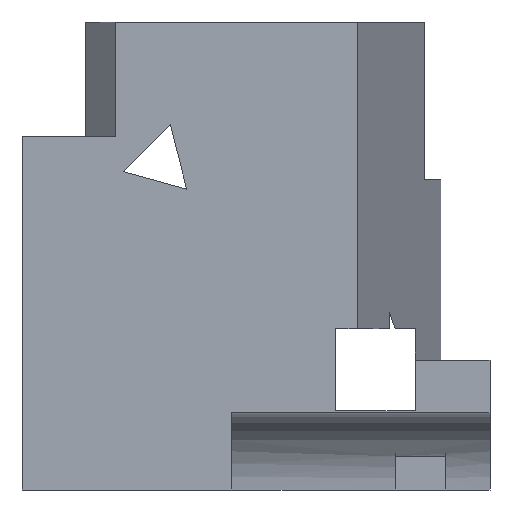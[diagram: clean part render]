
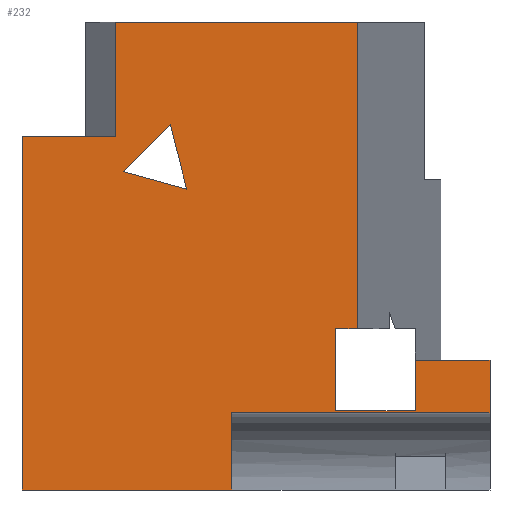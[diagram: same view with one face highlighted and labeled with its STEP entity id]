
A CAD part, left-side view. The second image highlights one B-rep face of the part: STEP entity #232.
In plain terms, the highlighted planar face has unit normal (-1, 0, 0).
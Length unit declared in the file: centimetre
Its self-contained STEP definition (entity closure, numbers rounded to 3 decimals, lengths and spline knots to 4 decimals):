
#7 = EDGE_CURVE ( 'NONE', #1198, #1191, #863, .T. ) ;
#24 = DIRECTION ( 'NONE',  ( 0., -1., 0. ) ) ;
#46 = LINE ( 'NONE', #792, #1154 ) ;
#54 = CARTESIAN_POINT ( 'NONE',  ( 0., 551.6766, 165.1297 ) ) ;
#55 = DIRECTION ( 'NONE',  ( 0., 0., 1. ) ) ;
#64 = DIRECTION ( 'NONE',  ( 0., -1., 0. ) ) ;
#77 = ORIENTED_EDGE ( 'NONE', *, *, #1058, .T. ) ;
#79 = ORIENTED_EDGE ( 'NONE', *, *, #561, .T. ) ;
#81 = DIRECTION ( 'NONE',  ( 0., 0., -1. ) ) ;
#84 = ORIENTED_EDGE ( 'NONE', *, *, #913, .F. ) ;
#91 = VECTOR ( 'NONE', #260, 100. ) ;
#92 = EDGE_CURVE ( 'NONE', #1049, #377, #565, .T. ) ;
#97 = CARTESIAN_POINT ( 'NONE',  ( 0., 801.0305, 755.0713 ) ) ;
#98 = CARTESIAN_POINT ( 'NONE',  ( 0., 801.0305, 755.0713 ) ) ;
#100 = EDGE_CURVE ( 'NONE', #225, #1229, #477, .T. ) ;
#124 = CARTESIAN_POINT ( 'NONE',  ( 0., 647.9338, 642.7946 ) ) ;
#135 = VECTOR ( 'NONE', #55, 100. ) ;
#141 = VECTOR ( 'NONE', #280, 100. ) ;
#153 = DIRECTION ( 'NONE',  ( 0., -1., 0. ) ) ;
#154 = VECTOR ( 'NONE', #24, 100. ) ;
#169 = VECTOR ( 'NONE', #866, 100. ) ;
#176 = LINE ( 'NONE', #1236, #1159 ) ;
#180 = DIRECTION ( 'NONE',  ( 0., -1., 0. ) ) ;
#189 = ORIENTED_EDGE ( 'NONE', *, *, #846, .F. ) ;
#205 = ORIENTED_EDGE ( 'NONE', *, *, #541, .T. ) ;
#219 = VERTEX_POINT ( 'NONE', #54 ) ;
#225 = VERTEX_POINT ( 'NONE', #724 ) ;
#226 = DIRECTION ( 'NONE',  ( 0., 1., 0. ) ) ;
#230 = DIRECTION ( 'NONE',  ( 1., 0., 0. ) ) ;
#231 = LINE ( 'NONE', #731, #91 ) ;
#232 = ADVANCED_FACE ( 'NONE', ( #1208, #1116 ), #821, .F. ) ;
#243 = LINE ( 'NONE', #1028, #488 ) ;
#249 = DIRECTION ( 'NONE',  ( 0., 0.246, 0.969 ) ) ;
#252 = CARTESIAN_POINT ( 'NONE',  ( 0., 1000., 1000. ) ) ;
#260 = DIRECTION ( 'NONE',  ( 0., -1., 0. ) ) ;
#268 = CARTESIAN_POINT ( 'NONE',  ( 0., 784.0698, 680.2239 ) ) ;
#280 = DIRECTION ( 'NONE',  ( 0., -1., 0. ) ) ;
#282 = VECTOR ( 'NONE', #769, 100. ) ;
#294 = ORIENTED_EDGE ( 'NONE', *, *, #632, .T. ) ;
#350 = LINE ( 'NONE', #924, #135 ) ;
#357 = LINE ( 'NONE', #252, #450 ) ;
#367 = LINE ( 'NONE', #1050, #744 ) ;
#370 = ORIENTED_EDGE ( 'NONE', *, *, #396, .T. ) ;
#377 = VERTEX_POINT ( 'NONE', #704 ) ;
#380 = CARTESIAN_POINT ( 'NONE',  ( 0., 159.5787, 169.7325 ) ) ;
#393 = VERTEX_POINT ( 'NONE', #626 ) ;
#396 = EDGE_CURVE ( 'NONE', #1229, #914, #414, .T. ) ;
#397 = LINE ( 'NONE', #1244, #154 ) ;
#399 = DIRECTION ( 'NONE',  ( 0., 0.707, -0.707 ) ) ;
#414 = LINE ( 'NONE', #875, #860 ) ;
#419 = CARTESIAN_POINT ( 'NONE',  ( 0., 330.2665, 344.9865 ) ) ;
#436 = ORIENTED_EDGE ( 'NONE', *, *, #92, .T. ) ;
#440 = EDGE_CURVE ( 'NONE', #1097, #393, #46, .T. ) ;
#450 = VECTOR ( 'NONE', #64, 100. ) ;
#455 = VERTEX_POINT ( 'NONE', #586 ) ;
#466 = EDGE_CURVE ( 'NONE', #219, #455, #1106, .T. ) ;
#476 = CARTESIAN_POINT ( 'NONE',  ( 0., 1000., 755.0713 ) ) ;
#477 = LINE ( 'NONE', #380, #169 ) ;
#479 = CARTESIAN_POINT ( 'NONE',  ( 0., 283.3694, 1000. ) ) ;
#488 = VECTOR ( 'NONE', #930, 100. ) ;
#489 = VECTOR ( 'NONE', #557, 100. ) ;
#505 = EDGE_CURVE ( 'NONE', #1191, #1200, #357, .T. ) ;
#514 = VECTOR ( 'NONE', #153, 100. ) ;
#532 = ORIENTED_EDGE ( 'NONE', *, *, #466, .F. ) ;
#541 = EDGE_CURVE ( 'NONE', #1068, #1200, #243, .T. ) ;
#547 = CARTESIAN_POINT ( 'NONE',  ( 0., 1000., 0. ) ) ;
#557 = DIRECTION ( 'NONE',  ( 0., -0.964, -0.265 ) ) ;
#561 = EDGE_CURVE ( 'NONE', #914, #1237, #350, .T. ) ;
#565 = LINE ( 'NONE', #955, #282 ) ;
#578 = EDGE_CURVE ( 'NONE', #225, #584, #839, .T. ) ;
#584 = VERTEX_POINT ( 'NONE', #735 ) ;
#586 = CARTESIAN_POINT ( 'NONE',  ( 0., 551.6766, 0. ) ) ;
#589 = ORIENTED_EDGE ( 'NONE', *, *, #7, .F. ) ;
#626 = CARTESIAN_POINT ( 'NONE',  ( 0., 784.0698, 680.2239 ) ) ;
#630 = DIRECTION ( 'NONE',  ( 0., 0., -1. ) ) ;
#632 = EDGE_CURVE ( 'NONE', #219, #721, #397, .T. ) ;
#642 = CARTESIAN_POINT ( 'NONE',  ( 0., 283.3694, 277.4848 ) ) ;
#667 = ORIENTED_EDGE ( 'NONE', *, *, #100, .T. ) ;
#678 = ORIENTED_EDGE ( 'NONE', *, *, #440, .F. ) ;
#690 = CARTESIAN_POINT ( 'NONE',  ( 0., 0., 165.1297 ) ) ;
#704 = CARTESIAN_POINT ( 'NONE',  ( 0., 1000., 0. ) ) ;
#715 = ORIENTED_EDGE ( 'NONE', *, *, #578, .F. ) ;
#721 = VERTEX_POINT ( 'NONE', #690 ) ;
#722 = CARTESIAN_POINT ( 'NONE',  ( 0., 647.9338, 642.7946 ) ) ;
#724 = CARTESIAN_POINT ( 'NONE',  ( 0., 159.5787, 277.4848 ) ) ;
#725 = VECTOR ( 'NONE', #817, 100. ) ;
#731 = CARTESIAN_POINT ( 'NONE',  ( 0., 801.0305, 755.0713 ) ) ;
#735 = CARTESIAN_POINT ( 'NONE',  ( 0., 0., 277.4848 ) ) ;
#744 = VECTOR ( 'NONE', #180, 100. ) ;
#749 = EDGE_CURVE ( 'NONE', #393, #816, #1135, .T. ) ;
#761 = EDGE_CURVE ( 'NONE', #1237, #1068, #367, .T. ) ;
#769 = DIRECTION ( 'NONE',  ( 0., 0., -1. ) ) ;
#792 = CARTESIAN_POINT ( 'NONE',  ( 0., 683.1112, 781.1825 ) ) ;
#801 = AXIS2_PLACEMENT_3D ( 'NONE', #1186, #230, #630 ) ;
#816 = VERTEX_POINT ( 'NONE', #124 ) ;
#817 = DIRECTION ( 'NONE',  ( 0., 0., -1. ) ) ;
#821 = PLANE ( 'NONE',  #801 ) ;
#839 = LINE ( 'NONE', #642, #514 ) ;
#846 = EDGE_CURVE ( 'NONE', #1049, #1198, #231, .T. ) ;
#860 = VECTOR ( 'NONE', #226, 100. ) ;
#863 = LINE ( 'NONE', #98, #1176 ) ;
#866 = DIRECTION ( 'NONE',  ( 0., 0., -1. ) ) ;
#867 = EDGE_LOOP ( 'NONE', ( #532, #294, #952, #715, #667, #370, #79, #1026, #205, #1212, #589, #189, #436, #77 ) ) ;
#875 = CARTESIAN_POINT ( 'NONE',  ( 0., 159.5787, 169.7325 ) ) ;
#894 = CARTESIAN_POINT ( 'NONE',  ( 0., 551.6766, 1000. ) ) ;
#913 = EDGE_CURVE ( 'NONE', #816, #1097, #1120, .T. ) ;
#914 = VERTEX_POINT ( 'NONE', #1220 ) ;
#924 = CARTESIAN_POINT ( 'NONE',  ( 0., 330.2665, 169.7325 ) ) ;
#930 = DIRECTION ( 'NONE',  ( 0., 0., 1. ) ) ;
#947 = VECTOR ( 'NONE', #249, 100. ) ;
#949 = LINE ( 'NONE', #547, #141 ) ;
#952 = ORIENTED_EDGE ( 'NONE', *, *, #1010, .F. ) ;
#955 = CARTESIAN_POINT ( 'NONE',  ( 0., 1000., 1000. ) ) ;
#1010 = EDGE_CURVE ( 'NONE', #584, #721, #176, .T. ) ;
#1026 = ORIENTED_EDGE ( 'NONE', *, *, #761, .T. ) ;
#1028 = CARTESIAN_POINT ( 'NONE',  ( 0., 283.3694, 277.4848 ) ) ;
#1049 = VERTEX_POINT ( 'NONE', #476 ) ;
#1050 = CARTESIAN_POINT ( 'NONE',  ( 0., 159.5787, 344.9865 ) ) ;
#1058 = EDGE_CURVE ( 'NONE', #377, #455, #949, .T. ) ;
#1068 = VERTEX_POINT ( 'NONE', #1245 ) ;
#1078 = EDGE_LOOP ( 'NONE', ( #84, #1206, #678 ) ) ;
#1097 = VERTEX_POINT ( 'NONE', #1132 ) ;
#1106 = LINE ( 'NONE', #894, #725 ) ;
#1116 = FACE_OUTER_BOUND ( 'NONE', #867, .T. ) ;
#1120 = LINE ( 'NONE', #722, #947 ) ;
#1132 = CARTESIAN_POINT ( 'NONE',  ( 0., 683.1112, 781.1825 ) ) ;
#1135 = LINE ( 'NONE', #268, #489 ) ;
#1143 = DIRECTION ( 'NONE',  ( 0., 0., 1. ) ) ;
#1154 = VECTOR ( 'NONE', #399, 100. ) ;
#1159 = VECTOR ( 'NONE', #81, 100. ) ;
#1164 = CARTESIAN_POINT ( 'NONE',  ( 0., 801.0305, 1000. ) ) ;
#1167 = CARTESIAN_POINT ( 'NONE',  ( 0., 159.5787, 169.7325 ) ) ;
#1176 = VECTOR ( 'NONE', #1143, 100. ) ;
#1186 = CARTESIAN_POINT ( 'NONE',  ( 0., 1000., 1000. ) ) ;
#1191 = VERTEX_POINT ( 'NONE', #1164 ) ;
#1198 = VERTEX_POINT ( 'NONE', #97 ) ;
#1200 = VERTEX_POINT ( 'NONE', #479 ) ;
#1206 = ORIENTED_EDGE ( 'NONE', *, *, #749, .F. ) ;
#1208 = FACE_BOUND ( 'NONE', #1078, .T. ) ;
#1212 = ORIENTED_EDGE ( 'NONE', *, *, #505, .F. ) ;
#1220 = CARTESIAN_POINT ( 'NONE',  ( 0., 330.2665, 169.7325 ) ) ;
#1229 = VERTEX_POINT ( 'NONE', #1167 ) ;
#1236 = CARTESIAN_POINT ( 'NONE',  ( 0., 0., 1000. ) ) ;
#1237 = VERTEX_POINT ( 'NONE', #419 ) ;
#1244 = CARTESIAN_POINT ( 'NONE',  ( 0., 551.6766, 165.1297 ) ) ;
#1245 = CARTESIAN_POINT ( 'NONE',  ( 0., 283.3694, 344.9865 ) ) ;
